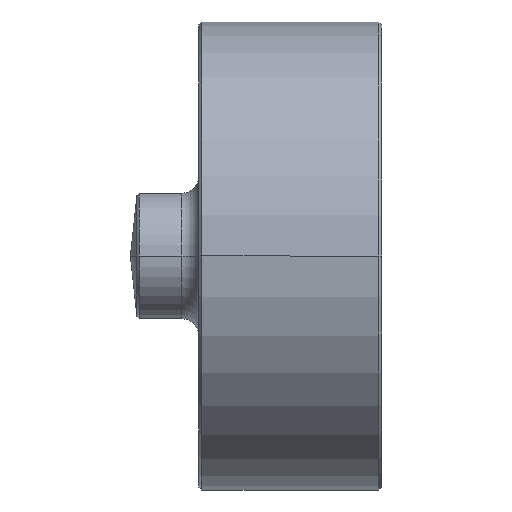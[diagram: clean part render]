
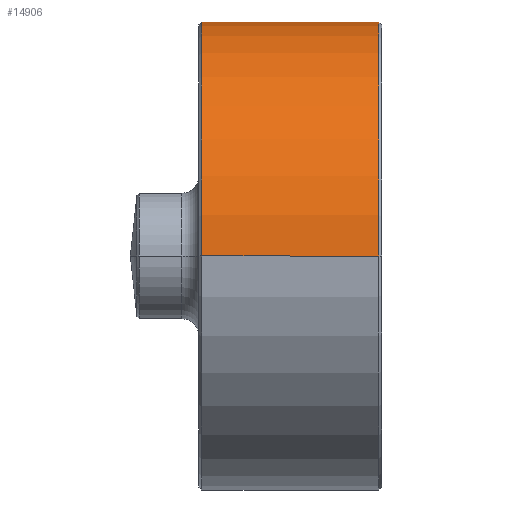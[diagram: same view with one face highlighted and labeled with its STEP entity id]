
A CAD part, left-side view. The second image highlights one B-rep face of the part: STEP entity #14906.
In plain terms, the highlighted cylindrical face has radius 41 mm (diameter 82 mm), a partial arc.
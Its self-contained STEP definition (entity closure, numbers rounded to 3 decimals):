
#302 = CARTESIAN_POINT ( 'NONE',  ( 40.424, 17., 6.85 ) ) ;
#398 = CARTESIAN_POINT ( 'NONE',  ( 40.788, 11.553, 4.178 ) ) ;
#463 = CARTESIAN_POINT ( 'NONE',  ( -41., 0.5, 0. ) ) ;
#1454 = ORIENTED_EDGE ( 'NONE', *, *, #12695, .T. ) ;
#1810 = CARTESIAN_POINT ( 'NONE',  ( 40.585, 13.379, 5.819 ) ) ;
#1903 = CARTESIAN_POINT ( 'NONE',  ( 40.462, 15.223, 6.619 ) ) ;
#2343 = CARTESIAN_POINT ( 'NONE',  ( -41., 31.5, 0. ) ) ;
#2359 = EDGE_CURVE ( 'NONE', #18430, #14468, #9571, .T. ) ;
#2389 = DIRECTION ( 'NONE',  ( 0., 1., 0. ) ) ;
#2597 = CARTESIAN_POINT ( 'NONE',  ( 40.424, 17., 6.85 ) ) ;
#2692 = CARTESIAN_POINT ( 'NONE',  ( 40.888, 23.144, 3.036 ) ) ;
#2719 = DIRECTION ( 'NONE',  ( 0., 1., 0. ) ) ;
#2778 = CARTESIAN_POINT ( 'NONE',  ( 40.943, 23.5, 2.208 ) ) ;
#2873 = CARTESIAN_POINT ( 'NONE',  ( 41., 23.85, 0.448 ) ) ;
#3153 = CIRCLE ( 'NONE', #15193, 41. ) ;
#3213 = CARTESIAN_POINT ( 'NONE',  ( 40.962, 10.38, 1.775 ) ) ;
#3302 = CARTESIAN_POINT ( 'NONE',  ( 40.424, 17., 6.85 ) ) ;
#3553 = ORIENTED_EDGE ( 'NONE', *, *, #9104, .F. ) ;
#4308 = EDGE_CURVE ( 'NONE', #11868, #12035, #5713, .T. ) ;
#4614 = CARTESIAN_POINT ( 'NONE',  ( 40.424, 16.552, 6.85 ) ) ;
#4708 = CARTESIAN_POINT ( 'NONE',  ( 41., 10.15, 0.453 ) ) ;
#4759 = ORIENTED_EDGE ( 'NONE', *, *, #13099, .T. ) ;
#4989 = CARTESIAN_POINT ( 'NONE',  ( 40.858, 11.057, 3.435 ) ) ;
#5599 = CARTESIAN_POINT ( 'NONE',  ( 40.903, 23.242, 2.831 ) ) ;
#5713 = CIRCLE ( 'NONE', #7531, 41. ) ;
#5754 = VECTOR ( 'NONE', #2719, 1000. ) ;
#6126 = CARTESIAN_POINT ( 'NONE',  ( 40.941, 10.511, 2.205 ) ) ;
#6317 = CARTESIAN_POINT ( 'NONE',  ( 41., 10.15, 0. ) ) ;
#6333 = EDGE_CURVE ( 'NONE', #14468, #6662, #12318, .T. ) ;
#6406 = CARTESIAN_POINT ( 'NONE',  ( 40.431, 16.107, 6.807 ) ) ;
#6662 = VERTEX_POINT ( 'NONE', #18530 ) ;
#6960 = CARTESIAN_POINT ( 'NONE',  ( -41., 44., 0. ) ) ;
#6961 = DIRECTION ( 'NONE',  ( -1., 0., 0. ) ) ;
#7531 = AXIS2_PLACEMENT_3D ( 'NONE', #10649, #18160, #9227 ) ;
#7548 = CARTESIAN_POINT ( 'NONE',  ( 40.638, 12.818, 5.444 ) ) ;
#7645 = CARTESIAN_POINT ( 'NONE',  ( 40.507, 14.373, 6.338 ) ) ;
#7825 = CARTESIAN_POINT ( 'NONE',  ( 40.675, 12.474, 5.161 ) ) ;
#8368 = CYLINDRICAL_SURFACE ( 'NONE', #16463, 41. ) ;
#9052 = CARTESIAN_POINT ( 'NONE',  ( 40.889, 10.846, 3.042 ) ) ;
#9104 = EDGE_CURVE ( 'NONE', #11868, #14753, #14219, .T. ) ;
#9227 = DIRECTION ( 'NONE',  ( -1., 0., 0. ) ) ;
#9555 = LINE ( 'NONE', #15302, #10381 ) ;
#9571 = B_SPLINE_CURVE_WITH_KNOTS ( 'NONE', 3,
 ( #12773, #2873, #17021, #18515, #2778, #5599, #2692, #9761, #11555, #15699, #18329, #16921, #15507, #14286, #17206, #12680, #18421, #12964, #15796, #14092, #14188, #2597 ),
 .UNSPECIFIED., .F., .F.,
 ( 4, 2, 2, 2, 2, 2, 2, 2, 2, 2, 4 ),
 ( 0.011, 0.012, 0.013, 0.014, 0.015, 0.016, 0.017, 0.018, 0.019, 0.02, 0.021 ),
 .UNSPECIFIED. ) ;
#9761 = CARTESIAN_POINT ( 'NONE',  ( 40.857, 22.932, 3.432 ) ) ;
#9780 = VECTOR ( 'NONE', #11237, 1000. ) ;
#9822 = CARTESIAN_POINT ( 'NONE',  ( 41., 44., 0. ) ) ;
#10381 = VECTOR ( 'NONE', #2389, 1000. ) ;
#10575 = CARTESIAN_POINT ( 'NONE',  ( 40.453, 15.442, 6.674 ) ) ;
#10632 = CARTESIAN_POINT ( 'NONE',  ( 41., 0.5, 0. ) ) ;
#10649 = CARTESIAN_POINT ( 'NONE',  ( 0., 0.5, 0. ) ) ;
#11237 = DIRECTION ( 'NONE',  ( 0., 1., 0. ) ) ;
#11549 = ORIENTED_EDGE ( 'NONE', *, *, #13145, .F. ) ;
#11555 = CARTESIAN_POINT ( 'NONE',  ( 40.84, 22.817, 3.623 ) ) ;
#11868 = VERTEX_POINT ( 'NONE', #463 ) ;
#11895 = CARTESIAN_POINT ( 'NONE',  ( 40.971, 10.326, 1.558 ) ) ;
#12035 = VERTEX_POINT ( 'NONE', #10632 ) ;
#12077 = CARTESIAN_POINT ( 'NONE',  ( 40.568, 13.573, 5.935 ) ) ;
#12168 = CARTESIAN_POINT ( 'NONE',  ( 40.537, 13.969, 6.147 ) ) ;
#12318 = B_SPLINE_CURVE_WITH_KNOTS ( 'NONE', 3,
 ( #3302, #4614, #6406, #10575, #1903, #17905, #7645, #12168, #12077, #1810, #7548, #7825, #17632, #398, #4989, #9052, #16127, #6126, #3213, #11895, #14994, #4708, #6317 ),
 .UNSPECIFIED., .F., .F.,
 ( 4, 2, 2, 1, 2, 2, 2, 2, 2, 2, 2, 4 ),
 ( 0.021, 0.023, 0.023, 0.024, 0.025, 0.025, 0.027, 0.028, 0.03, 0.03, 0.031, 0.032 ),
 .UNSPECIFIED. ) ;
#12460 = DIRECTION ( 'NONE',  ( 0., 1., 0. ) ) ;
#12680 = CARTESIAN_POINT ( 'NONE',  ( 40.537, 20.035, 6.145 ) ) ;
#12695 = EDGE_CURVE ( 'NONE', #18430, #18606, #9555, .T. ) ;
#12773 = CARTESIAN_POINT ( 'NONE',  ( 41., 23.85, 0. ) ) ;
#12805 = CARTESIAN_POINT ( 'NONE',  ( 0., 44., 0. ) ) ;
#12964 = CARTESIAN_POINT ( 'NONE',  ( 40.482, 19.208, 6.5 ) ) ;
#13099 = EDGE_CURVE ( 'NONE', #12035, #6662, #14916, .T. ) ;
#13145 = EDGE_CURVE ( 'NONE', #14753, #18606, #3153, .T. ) ;
#13445 = ORIENTED_EDGE ( 'NONE', *, *, #6333, .F. ) ;
#14092 = CARTESIAN_POINT ( 'NONE',  ( 40.431, 17.902, 6.805 ) ) ;
#14188 = CARTESIAN_POINT ( 'NONE',  ( 40.424, 17.447, 6.85 ) ) ;
#14219 = LINE ( 'NONE', #6960, #5754 ) ;
#14286 = CARTESIAN_POINT ( 'NONE',  ( 40.585, 20.623, 5.818 ) ) ;
#14468 = VERTEX_POINT ( 'NONE', #302 ) ;
#14753 = VERTEX_POINT ( 'NONE', #2343 ) ;
#14833 = CARTESIAN_POINT ( 'NONE',  ( 41., 31.5, 0. ) ) ;
#14906 = ADVANCED_FACE ( 'NONE', ( #15915 ), #8368, .T. ) ;
#14916 = LINE ( 'NONE', #9822, #9780 ) ;
#14994 = CARTESIAN_POINT ( 'NONE',  ( 40.992, 10.195, 0.9 ) ) ;
#15060 = ORIENTED_EDGE ( 'NONE', *, *, #4308, .T. ) ;
#15193 = AXIS2_PLACEMENT_3D ( 'NONE', #15569, #12460, #18198 ) ;
#15302 = CARTESIAN_POINT ( 'NONE',  ( 41., 44., 0. ) ) ;
#15311 = EDGE_LOOP ( 'NONE', ( #15060, #4759, #13445, #17628, #1454, #11549, #3553 ) ) ;
#15507 = CARTESIAN_POINT ( 'NONE',  ( 40.637, 21.179, 5.446 ) ) ;
#15569 = CARTESIAN_POINT ( 'NONE',  ( 0., 31.5, 0. ) ) ;
#15699 = CARTESIAN_POINT ( 'NONE',  ( 40.788, 22.446, 4.179 ) ) ;
#15728 = DIRECTION ( 'NONE',  ( 0., 1., 0. ) ) ;
#15796 = CARTESIAN_POINT ( 'NONE',  ( 40.461, 18.781, 6.63 ) ) ;
#15915 = FACE_OUTER_BOUND ( 'NONE', #15311, .T. ) ;
#16127 = CARTESIAN_POINT ( 'NONE',  ( 40.929, 10.587, 2.419 ) ) ;
#16463 = AXIS2_PLACEMENT_3D ( 'NONE', #12805, #15728, #6961 ) ;
#16921 = CARTESIAN_POINT ( 'NONE',  ( 40.675, 21.524, 5.163 ) ) ;
#17021 = CARTESIAN_POINT ( 'NONE',  ( 40.992, 23.805, 0.902 ) ) ;
#17206 = CARTESIAN_POINT ( 'NONE',  ( 40.569, 20.431, 5.933 ) ) ;
#17571 = CARTESIAN_POINT ( 'NONE',  ( 41., 23.85, 0. ) ) ;
#17628 = ORIENTED_EDGE ( 'NONE', *, *, #2359, .F. ) ;
#17632 = CARTESIAN_POINT ( 'NONE',  ( 40.75, 11.842, 4.53 ) ) ;
#17905 = CARTESIAN_POINT ( 'NONE',  ( 40.483, 14.794, 6.489 ) ) ;
#18160 = DIRECTION ( 'NONE',  ( 0., 1., 0. ) ) ;
#18198 = DIRECTION ( 'NONE',  ( -1., 0., 0. ) ) ;
#18329 = CARTESIAN_POINT ( 'NONE',  ( 40.751, 22.162, 4.526 ) ) ;
#18421 = CARTESIAN_POINT ( 'NONE',  ( 40.522, 19.83, 6.242 ) ) ;
#18430 = VERTEX_POINT ( 'NONE', #17571 ) ;
#18515 = CARTESIAN_POINT ( 'NONE',  ( 40.964, 23.63, 1.781 ) ) ;
#18530 = CARTESIAN_POINT ( 'NONE',  ( 41., 10.15, 0. ) ) ;
#18606 = VERTEX_POINT ( 'NONE', #14833 ) ;
